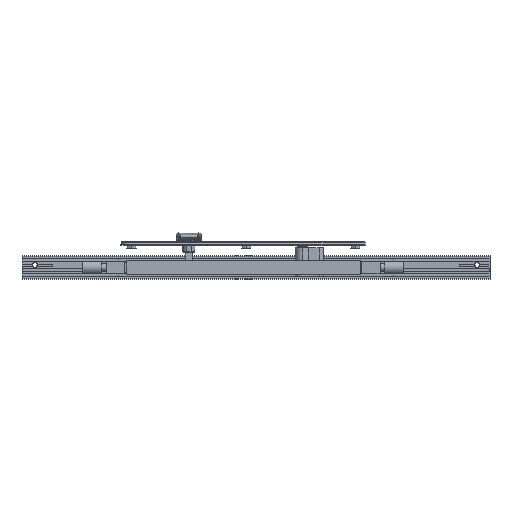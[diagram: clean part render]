
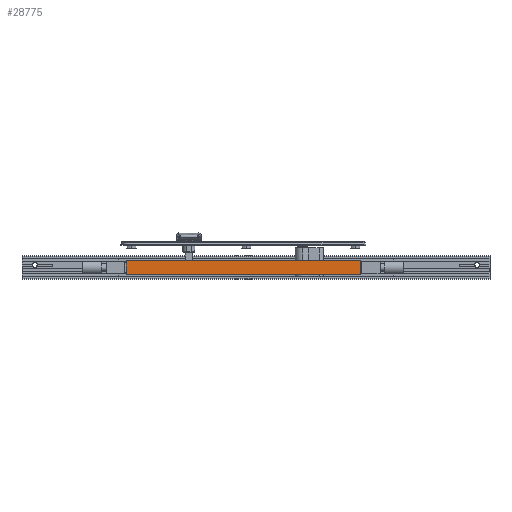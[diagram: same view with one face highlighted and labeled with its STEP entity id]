
A CAD part, left-side view. The second image highlights one B-rep face of the part: STEP entity #28775.
In plain terms, the highlighted planar face has unit normal (-1, 0, 0) as drawn and (1, 0, 0) by its records, which use the part's own axes.
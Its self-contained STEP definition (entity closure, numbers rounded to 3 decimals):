
#1083 = LINE ( 'NONE', #4459, #16381 ) ;
#1084 = LINE ( 'NONE', #11438, #17827 ) ;
#2156 = ORIENTED_EDGE ( 'NONE', *, *, #21072, .F. ) ;
#2188 = EDGE_LOOP ( 'NONE', ( #7183, #2156, #29756, #31512 ) ) ;
#2980 = VECTOR ( 'NONE', #33321, 1000. ) ;
#3954 = VERTEX_POINT ( 'NONE', #10935 ) ;
#4459 = CARTESIAN_POINT ( 'NONE',  ( 16., 72.75, 7.75 ) ) ;
#5494 = DIRECTION ( 'NONE',  ( 0., 0., -1. ) ) ;
#7102 = LINE ( 'NONE', #27587, #2980 ) ;
#7183 = ORIENTED_EDGE ( 'NONE', *, *, #9241, .T. ) ;
#8262 = CARTESIAN_POINT ( 'NONE',  ( 16., -199.25, 7.75 ) ) ;
#8401 = VERTEX_POINT ( 'NONE', #8262 ) ;
#9241 = EDGE_CURVE ( 'NONE', #14898, #3954, #7102, .T. ) ;
#10935 = CARTESIAN_POINT ( 'NONE',  ( 16., 72.75, -7.75 ) ) ;
#11438 = CARTESIAN_POINT ( 'NONE',  ( 16., 72.75, 7.75 ) ) ;
#13066 = VECTOR ( 'NONE', #5494, 1000. ) ;
#13871 = DIRECTION ( 'NONE',  ( 0., -1., 0. ) ) ;
#14238 = AXIS2_PLACEMENT_3D ( 'NONE', #21669, #29757, #13871 ) ;
#14898 = VERTEX_POINT ( 'NONE', #29839 ) ;
#16381 = VECTOR ( 'NONE', #22906, 1000. ) ;
#17827 = VECTOR ( 'NONE', #26659, 1000. ) ;
#18699 = CARTESIAN_POINT ( 'NONE',  ( 16., -199.25, 7.75 ) ) ;
#18967 = FACE_OUTER_BOUND ( 'NONE', #2188, .T. ) ;
#21072 = EDGE_CURVE ( 'NONE', #30241, #3954, #1083, .T. ) ;
#21669 = CARTESIAN_POINT ( 'NONE',  ( 16., 72.75, 7.75 ) ) ;
#22906 = DIRECTION ( 'NONE',  ( 0., 0., -1. ) ) ;
#25981 = LINE ( 'NONE', #18699, #13066 ) ;
#26659 = DIRECTION ( 'NONE',  ( 0., 1., 0. ) ) ;
#27587 = CARTESIAN_POINT ( 'NONE',  ( 16., 72.75, -7.75 ) ) ;
#27764 = EDGE_CURVE ( 'NONE', #8401, #14898, #25981, .T. ) ;
#28775 = ADVANCED_FACE ( 'NONE', ( #18967 ), #32105, .F. ) ;
#29226 = CARTESIAN_POINT ( 'NONE',  ( 16., 72.75, 7.75 ) ) ;
#29756 = ORIENTED_EDGE ( 'NONE', *, *, #32996, .F. ) ;
#29757 = DIRECTION ( 'NONE',  ( -1., 0., 0. ) ) ;
#29839 = CARTESIAN_POINT ( 'NONE',  ( 16., -199.25, -7.75 ) ) ;
#30241 = VERTEX_POINT ( 'NONE', #29226 ) ;
#31512 = ORIENTED_EDGE ( 'NONE', *, *, #27764, .T. ) ;
#32105 = PLANE ( 'NONE',  #14238 ) ;
#32996 = EDGE_CURVE ( 'NONE', #8401, #30241, #1084, .T. ) ;
#33321 = DIRECTION ( 'NONE',  ( 0., 1., 0. ) ) ;
